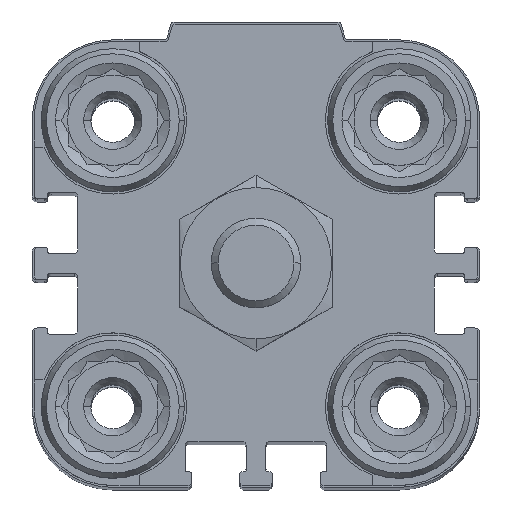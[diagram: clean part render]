
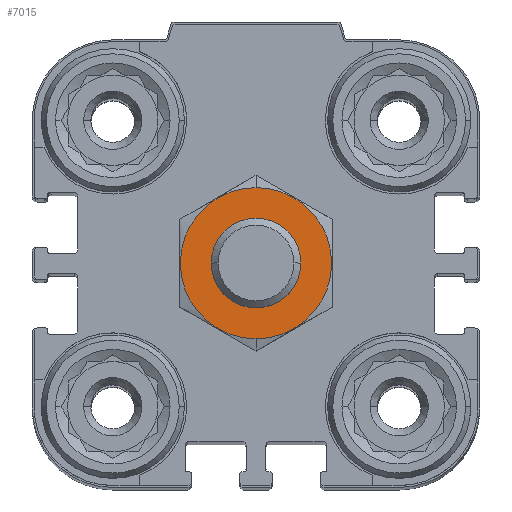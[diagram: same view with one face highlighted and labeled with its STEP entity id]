
A CAD part, top view. The second image highlights one B-rep face of the part: STEP entity #7015.
In plain terms, the highlighted planar face has unit normal (0, 0, 1).
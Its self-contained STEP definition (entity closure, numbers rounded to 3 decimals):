
#911 = FACE_BOUND ( 'NONE', #21800, .T. ) ;
#1830 = EDGE_CURVE ( 'NONE', #18968, #7852, #10319, .T. ) ;
#2323 = CIRCLE ( 'NONE', #11638, 5. ) ;
#2377 = CARTESIAN_POINT ( 'NONE',  ( 0., 0., 15. ) ) ;
#2527 = EDGE_CURVE ( 'NONE', #7852, #18968, #13452, .T. ) ;
#2850 = DIRECTION ( 'NONE',  ( 0., -1., 0. ) ) ;
#4618 = ORIENTED_EDGE ( 'NONE', *, *, #15360, .T. ) ;
#4680 = PLANE ( 'NONE',  #17943 ) ;
#5655 = AXIS2_PLACEMENT_3D ( 'NONE', #16772, #15059, #18597 ) ;
#7015 = ADVANCED_FACE ( 'NONE', ( #17615, #911 ), #4680, .F. ) ;
#7168 = CARTESIAN_POINT ( 'NONE',  ( 0., -5., 15. ) ) ;
#7852 = VERTEX_POINT ( 'NONE', #14936 ) ;
#8355 = DIRECTION ( 'NONE',  ( 0., 0., -1. ) ) ;
#9622 = DIRECTION ( 'NONE',  ( 0., -1., 0. ) ) ;
#9663 = CARTESIAN_POINT ( 'NONE',  ( 0., 8.45, 15. ) ) ;
#10319 = CIRCLE ( 'NONE', #5655, 8.45 ) ;
#11522 = AXIS2_PLACEMENT_3D ( 'NONE', #2377, #13088, #22737 ) ;
#11638 = AXIS2_PLACEMENT_3D ( 'NONE', #16569, #12779, #9622 ) ;
#12779 = DIRECTION ( 'NONE',  ( 0., 0., -1. ) ) ;
#13088 = DIRECTION ( 'NONE',  ( 0., 0., -1. ) ) ;
#13346 = CARTESIAN_POINT ( 'NONE',  ( 0., 5., 15. ) ) ;
#13452 = CIRCLE ( 'NONE', #11522, 8.45 ) ;
#14816 = EDGE_CURVE ( 'NONE', #21378, #22577, #17105, .T. ) ;
#14936 = CARTESIAN_POINT ( 'NONE',  ( 0., -8.45, 15. ) ) ;
#14975 = EDGE_LOOP ( 'NONE', ( #24047, #16139 ) ) ;
#15059 = DIRECTION ( 'NONE',  ( 0., 0., -1. ) ) ;
#15360 = EDGE_CURVE ( 'NONE', #22577, #21378, #2323, .T. ) ;
#16139 = ORIENTED_EDGE ( 'NONE', *, *, #1830, .F. ) ;
#16489 = CARTESIAN_POINT ( 'NONE',  ( 0., 0., 15. ) ) ;
#16569 = CARTESIAN_POINT ( 'NONE',  ( 0., 0., 15. ) ) ;
#16772 = CARTESIAN_POINT ( 'NONE',  ( 0., 0., 15. ) ) ;
#17105 = CIRCLE ( 'NONE', #18652, 5. ) ;
#17615 = FACE_OUTER_BOUND ( 'NONE', #14975, .T. ) ;
#17943 = AXIS2_PLACEMENT_3D ( 'NONE', #19568, #8355, #2850 ) ;
#18597 = DIRECTION ( 'NONE',  ( 0., -1., 0. ) ) ;
#18652 = AXIS2_PLACEMENT_3D ( 'NONE', #16489, #23915, #21404 ) ;
#18968 = VERTEX_POINT ( 'NONE', #9663 ) ;
#19568 = CARTESIAN_POINT ( 'NONE',  ( 0., 0., 15. ) ) ;
#20569 = ORIENTED_EDGE ( 'NONE', *, *, #14816, .T. ) ;
#21378 = VERTEX_POINT ( 'NONE', #13346 ) ;
#21404 = DIRECTION ( 'NONE',  ( 0., -1., 0. ) ) ;
#21800 = EDGE_LOOP ( 'NONE', ( #20569, #4618 ) ) ;
#22577 = VERTEX_POINT ( 'NONE', #7168 ) ;
#22737 = DIRECTION ( 'NONE',  ( 0., -1., 0. ) ) ;
#23915 = DIRECTION ( 'NONE',  ( 0., 0., -1. ) ) ;
#24047 = ORIENTED_EDGE ( 'NONE', *, *, #2527, .F. ) ;
